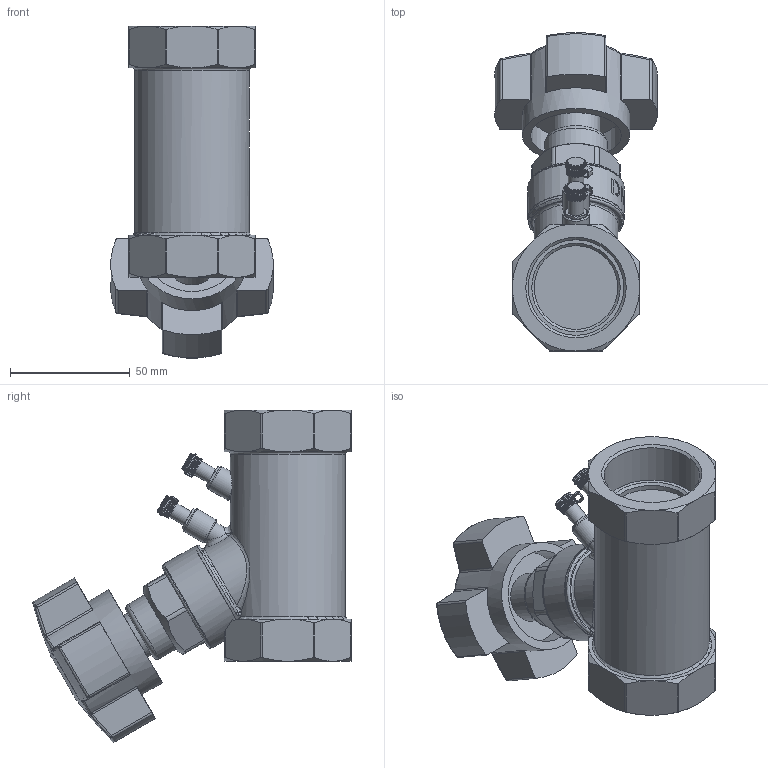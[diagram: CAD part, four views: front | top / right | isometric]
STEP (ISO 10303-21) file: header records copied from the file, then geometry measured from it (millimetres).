
FILE_DESCRIPTION(('STEP AP242'), '1');
FILE_NAME('VB0000P-T Êëàïàí áàëàíñèðîâî÷íûé Äó40 Ðó16', '2026-04-26T17:28:13', ('R2D2'), (''), 'C3D Converter', 'C3D Toolkit', '');
FILE_SCHEMA(('AP242_MANAGED_MODEL_BASED_3D_ENGINEERING_MIM_LF { 1 0 10303 442 1 1 4 }'));
Length unit declared in the file: millimetre
Products named in the file (1): VB0000P-T
Bounding box: 67.83 x 133.24 x 138.86 mm (x, y, z)
Volume: 244722.3 mm3; surface area: 52892.4 mm2
Topology: 1 solids, 2 shells, 1289 faces, 3510 edges, 2273 vertices
Faces by surface type: plane 919, extrusion 117, cylinder 115, bspline 54, cone 52, torus 22, sphere 10
Full cylindrical faces by diameter (mm): 6.5 x2, 11 x2, 15 x1, 17.157 x1, 20 x1, 26.264 x1, 30.708 x1, 35 x2, 38 x1, 40 x3, 40.441 x1, 45 x1, 48 x1
Entity records: 69723 total; most frequent: CARTESIAN_POINT 28643, ORIENTED_EDGE 6956, DIRECTION 5320, EDGE_CURVE 3478, VERTEX_POINT 2273, VECTOR 2232, LINE 2115, AXIS2_PLACEMENT_3D 1544
